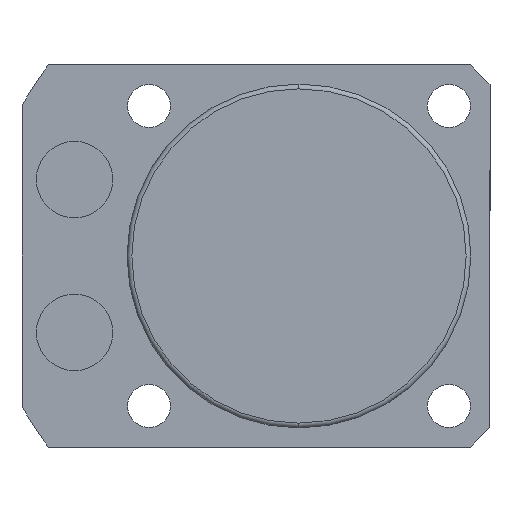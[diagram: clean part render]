
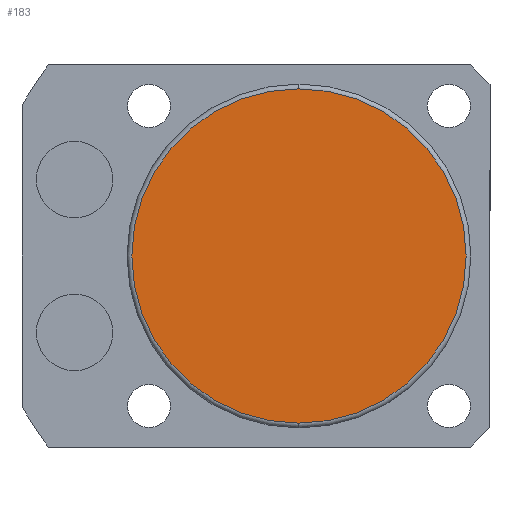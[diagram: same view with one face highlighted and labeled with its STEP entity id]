
A CAD part, front view. The second image highlights one B-rep face of the part: STEP entity #183.
In plain terms, the highlighted planar face has unit normal (0, -1, 0).
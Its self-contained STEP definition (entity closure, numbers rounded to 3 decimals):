
#183 = ADVANCED_FACE ( 'NONE', ( #1637 ), #2295, .T. ) ;
#320 = CARTESIAN_POINT ( 'NONE',  ( 0., -40.5, 17.5 ) ) ;
#326 = CARTESIAN_POINT ( 'NONE',  ( 0., -40.5, 0. ) ) ;
#363 = CARTESIAN_POINT ( 'NONE',  ( 0., -40.5, 0. ) ) ;
#372 = EDGE_CURVE ( 'NONE', #434, #1979, #2255, .T. ) ;
#434 = VERTEX_POINT ( 'NONE', #1477 ) ;
#611 = ORIENTED_EDGE ( 'NONE', *, *, #824, .T. ) ;
#824 = EDGE_CURVE ( 'NONE', #1979, #434, #859, .T. ) ;
#859 = CIRCLE ( 'NONE', #1422, 17.5 ) ;
#930 = CARTESIAN_POINT ( 'NONE',  ( 0., -40.5, 0. ) ) ;
#970 = AXIS2_PLACEMENT_3D ( 'NONE', #363, #1603, #1278 ) ;
#1129 = AXIS2_PLACEMENT_3D ( 'NONE', #326, #1229, #1596 ) ;
#1229 = DIRECTION ( 'NONE',  ( 0., -1., 0. ) ) ;
#1278 = DIRECTION ( 'NONE',  ( 0., 0., -1. ) ) ;
#1412 = EDGE_LOOP ( 'NONE', ( #1818, #611 ) ) ;
#1422 = AXIS2_PLACEMENT_3D ( 'NONE', #930, #1488, #1654 ) ;
#1477 = CARTESIAN_POINT ( 'NONE',  ( 0., -40.5, -17.5 ) ) ;
#1488 = DIRECTION ( 'NONE',  ( 0., -1., 0. ) ) ;
#1596 = DIRECTION ( 'NONE',  ( 0., 0., -1. ) ) ;
#1603 = DIRECTION ( 'NONE',  ( 0., -1., 0. ) ) ;
#1637 = FACE_OUTER_BOUND ( 'NONE', #1412, .T. ) ;
#1654 = DIRECTION ( 'NONE',  ( 0., 0., -1. ) ) ;
#1818 = ORIENTED_EDGE ( 'NONE', *, *, #372, .T. ) ;
#1979 = VERTEX_POINT ( 'NONE', #320 ) ;
#2255 = CIRCLE ( 'NONE', #970, 17.5 ) ;
#2295 = PLANE ( 'NONE',  #1129 ) ;
